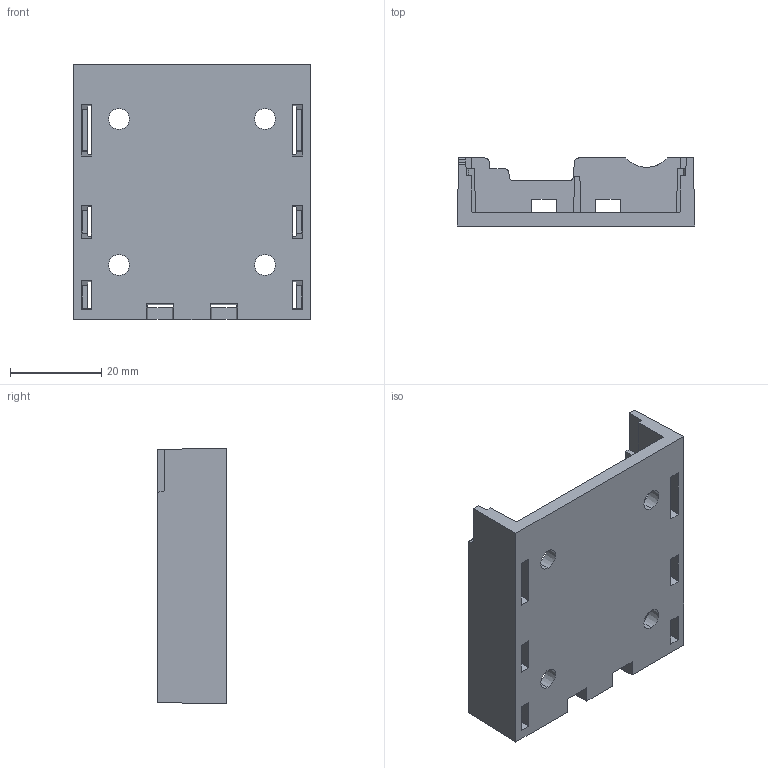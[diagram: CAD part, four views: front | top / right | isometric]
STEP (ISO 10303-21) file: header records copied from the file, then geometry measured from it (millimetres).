
FILE_DESCRIPTION (( 'STEP AP203' ), '1' );
FILE_NAME ('ACC-RB9704SMA-MOUNT-REV-A-2025-04-08.STEP', '2025-04-08T14:50:49', ( '' ), ( '' ), 'SwSTEP 2.0', 'SolidWorks 2024', '' );
FILE_SCHEMA (( 'CONFIG_CONTROL_DESIGN' ));
Length unit declared in the file: millimetre
Products named in the file (1): ACC-RB9704SMA-MOUNT-REV-A-2025-04-08
Bounding box: 52 x 15 x 56 mm (x, y, z)
Volume: 12006.7 mm3; surface area: 10753.1 mm2
Topology: 1 solids, 1 shells, 344 faces, 959 edges, 632 vertices
Faces by surface type: plane 199, bspline 120, cylinder 15, cone 10
Entity records: 11800 total; most frequent: CARTESIAN_POINT 3717, ORIENTED_EDGE 1918, DIRECTION 1178, EDGE_CURVE 959, LINE 664, VECTOR 664, VERTEX_POINT 632, EDGE_LOOP 383
